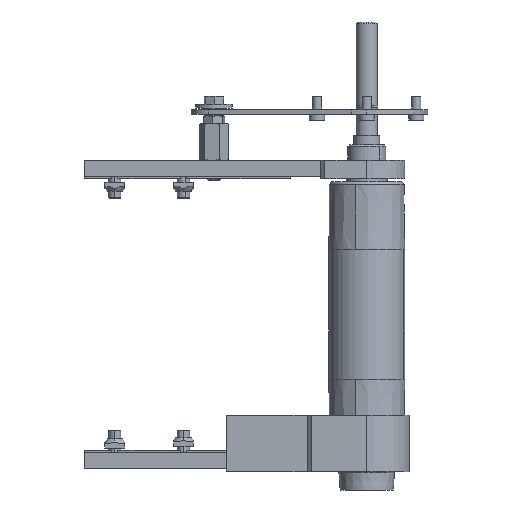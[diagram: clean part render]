
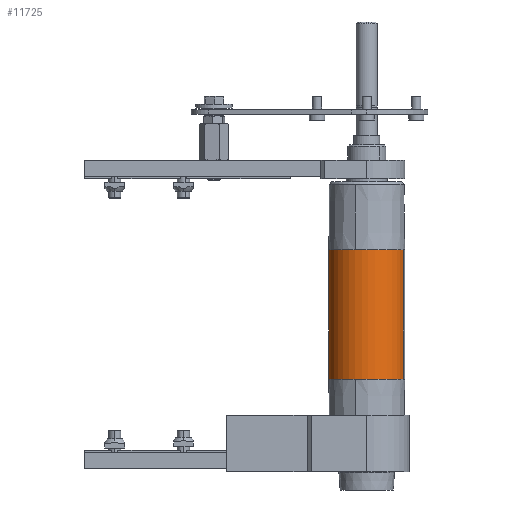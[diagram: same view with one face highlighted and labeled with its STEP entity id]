
A CAD part, front view. The second image highlights one B-rep face of the part: STEP entity #11725.
In plain terms, the highlighted cylindrical face has radius 25 mm (diameter 50 mm), a partial arc.
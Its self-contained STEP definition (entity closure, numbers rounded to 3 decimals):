
#166 = AXIS2_PLACEMENT_3D ( 'NONE', #5245, #16412, #6849 ) ;
#327 = CARTESIAN_POINT ( 'NONE',  ( 85., 0., 25. ) ) ;
#897 = DIRECTION ( 'NONE',  ( 0., -1., 0. ) ) ;
#1188 = DIRECTION ( 'NONE',  ( -1., 0., 0. ) ) ;
#1474 = CARTESIAN_POINT ( 'NONE',  ( 85., 0., 0. ) ) ;
#1923 = DIRECTION ( 'NONE',  ( -1., 0., 0. ) ) ;
#2694 = CARTESIAN_POINT ( 'NONE',  ( 85., 0., -25. ) ) ;
#2706 = ORIENTED_EDGE ( 'NONE', *, *, #20507, .F. ) ;
#2881 = AXIS2_PLACEMENT_3D ( 'NONE', #9099, #20230, #10687 ) ;
#3930 = CIRCLE ( 'NONE', #2881, 25. ) ;
#4313 = DIRECTION ( 'NONE',  ( -1., 0., 0. ) ) ;
#5239 = VERTEX_POINT ( 'NONE', #17611 ) ;
#5245 = CARTESIAN_POINT ( 'NONE',  ( -42.5, 0., 0. ) ) ;
#5518 = CIRCLE ( 'NONE', #11372, 25. ) ;
#5613 = AXIS2_PLACEMENT_3D ( 'NONE', #1474, #14280, #15798 ) ;
#5635 = EDGE_CURVE ( 'NONE', #15665, #16688, #15198, .T. ) ;
#5735 = CARTESIAN_POINT ( 'NONE',  ( -42.5, 0., -25. ) ) ;
#5769 = EDGE_CURVE ( 'NONE', #8954, #5239, #8974, .T. ) ;
#6849 = DIRECTION ( 'NONE',  ( 0., -1., 0. ) ) ;
#8288 = FACE_OUTER_BOUND ( 'NONE', #15659, .T. ) ;
#8332 = EDGE_CURVE ( 'NONE', #5239, #16688, #16871, .T. ) ;
#8409 = VECTOR ( 'NONE', #4313, 1000. ) ;
#8459 = CARTESIAN_POINT ( 'NONE',  ( -42.5, 0., 25. ) ) ;
#8954 = VERTEX_POINT ( 'NONE', #9571 ) ;
#8974 = CIRCLE ( 'NONE', #9842, 25. ) ;
#9099 = CARTESIAN_POINT ( 'NONE',  ( 42.5, 0., 0. ) ) ;
#9166 = LINE ( 'NONE', #327, #12368 ) ;
#9393 = VERTEX_POINT ( 'NONE', #13725 ) ;
#9571 = CARTESIAN_POINT ( 'NONE',  ( 42.5, 25., 0. ) ) ;
#9842 = AXIS2_PLACEMENT_3D ( 'NONE', #20023, #10498, #897 ) ;
#10498 = DIRECTION ( 'NONE',  ( -1., 0., 0. ) ) ;
#10687 = DIRECTION ( 'NONE',  ( 0., -1., 0. ) ) ;
#10795 = CARTESIAN_POINT ( 'NONE',  ( -42.5, 0., 0. ) ) ;
#11372 = AXIS2_PLACEMENT_3D ( 'NONE', #10795, #1188, #12365 ) ;
#11576 = EDGE_CURVE ( 'NONE', #19050, #15665, #5518, .T. ) ;
#11725 = ADVANCED_FACE ( 'NONE', ( #8288 ), #15271, .T. ) ;
#11988 = ORIENTED_EDGE ( 'NONE', *, *, #5635, .F. ) ;
#12365 = DIRECTION ( 'NONE',  ( 0., -1., 0. ) ) ;
#12368 = VECTOR ( 'NONE', #1923, 1000. ) ;
#13051 = ORIENTED_EDGE ( 'NONE', *, *, #15378, .T. ) ;
#13725 = CARTESIAN_POINT ( 'NONE',  ( 42.5, 0., 25. ) ) ;
#14280 = DIRECTION ( 'NONE',  ( -1., 0., 0. ) ) ;
#14580 = CARTESIAN_POINT ( 'NONE',  ( -42.5, 25., 0. ) ) ;
#15198 = CIRCLE ( 'NONE', #166, 25. ) ;
#15271 = CYLINDRICAL_SURFACE ( 'NONE', #5613, 25. ) ;
#15378 = EDGE_CURVE ( 'NONE', #9393, #8954, #3930, .T. ) ;
#15659 = EDGE_LOOP ( 'NONE', ( #13051, #20322, #18955, #11988, #16940, #2706 ) ) ;
#15665 = VERTEX_POINT ( 'NONE', #14580 ) ;
#15798 = DIRECTION ( 'NONE',  ( 0., 0., 1. ) ) ;
#16412 = DIRECTION ( 'NONE',  ( -1., 0., 0. ) ) ;
#16688 = VERTEX_POINT ( 'NONE', #5735 ) ;
#16871 = LINE ( 'NONE', #2694, #8409 ) ;
#16940 = ORIENTED_EDGE ( 'NONE', *, *, #11576, .F. ) ;
#17611 = CARTESIAN_POINT ( 'NONE',  ( 42.5, 0., -25. ) ) ;
#18955 = ORIENTED_EDGE ( 'NONE', *, *, #8332, .T. ) ;
#19050 = VERTEX_POINT ( 'NONE', #8459 ) ;
#20023 = CARTESIAN_POINT ( 'NONE',  ( 42.5, 0., 0. ) ) ;
#20230 = DIRECTION ( 'NONE',  ( -1., 0., 0. ) ) ;
#20322 = ORIENTED_EDGE ( 'NONE', *, *, #5769, .T. ) ;
#20507 = EDGE_CURVE ( 'NONE', #9393, #19050, #9166, .T. ) ;
